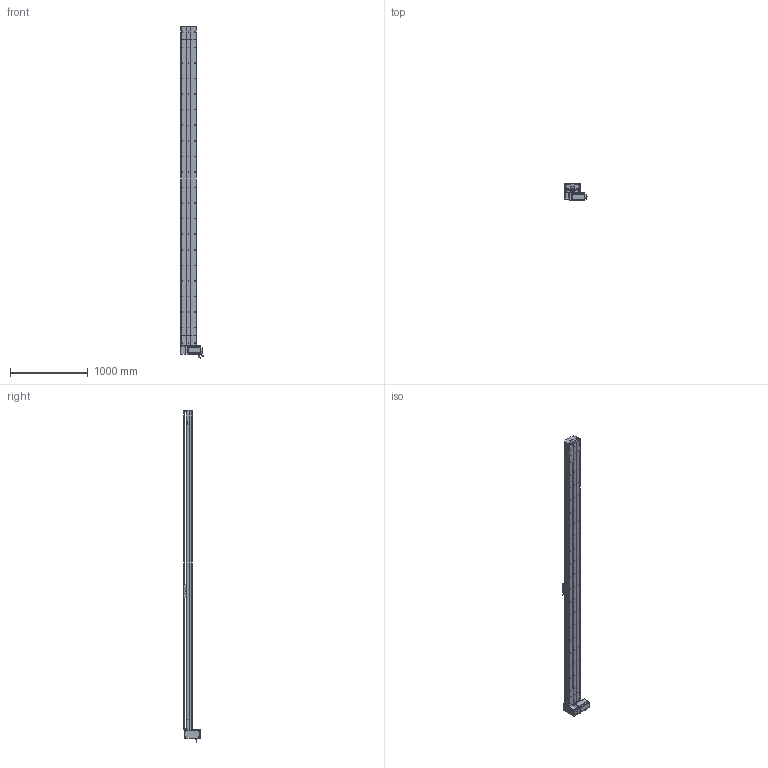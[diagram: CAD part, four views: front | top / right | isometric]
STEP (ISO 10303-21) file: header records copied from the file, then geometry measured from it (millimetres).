
FILE_DESCRIPTION (( 'STEP AP214' ), '1' );
FILE_NAME ('D20 TBH RU S3800.STEP', '2010-07-01T09:08:51', ( 'Conseil Régional Haute-Normandie' ), ( 'Conseil Régional Haute-Normandie' ), 'SwSTEP 2.0', 'SolidWorks 2010', '' );
FILE_SCHEMA (( 'AUTOMOTIVE_DESIGN' ));
Length unit declared in the file: millimetre
Products named in the file (40): D20 TBH RU S3800; Chariot D20B; chariot D20B_Default; Course B L3800_Default; guide D20B; rail + couroie  D20 S3800; couvercle D20 S3800_Default; corp D20 S3800_Default; Conecteur_Default; Conecteur2_Default; codeur 110BLDC170A-630x; vis M5 L12_Default; vis M8 L12_Default; clavette; avant 110BLDC170A-630x; Moteur motionking 110BLDC170A-640x; corps 110BLDC170A-630x; vis M5 L70_Default; poulie tail D20_Default; corpl tail D20_Default; tail D20_Default; couvercle tail D20_Default; Couroie tail D20_Default; plaque de  bout tail D20_Default; rail tail D20; vis M5 L8 90°_Default; tete d''axe poulie D20B; couvercle head D20_Default; rail head D20; corpl head D20_Default; head RU_Default; cache arbre D20_Default; plaque de  bout head D20B RU_Default; poulie head D20_Default; vis M5 L5_Default; couroie_Default; cache D20_Default; Plaque racord D20LH_Default; Renvoi RU D20_Default; vis M5 L25_Default
Assembly tree (71 placements, depth 4):
  D20 TBH RU S3800
    Course B L3800_Default
      rail + couroie  D20 S3800
      corp D20 S3800_Default
      couvercle D20 S3800_Default
    tail D20_Default
      vis M5 L25_Default  x2
      vis M5 L12_Default  x4
      couvercle tail D20_Default
      rail tail D20
      plaque de  bout tail D20_Default
      vis M5 L8 90°_Default  x2
      corpl tail D20_Default
      tete d''axe poulie D20B
      Couroie tail D20_Default
      poulie tail D20_Default
    head RU_Default
      vis M5 L12_Default  x10
      vis M5 L70_Default  x4
      vis M8 L12_Default  x4
      corpl head D20_Default
      couvercle head D20_Default
      vis M5 L25_Default  x2
      poulie head D20_Default
      vis M5 L5_Default  x4
      plaque de  bout head D20B RU_Default
      cache D20_Default  x2
      couroie_Default
      cache arbre D20_Default
      rail head D20
      Moteur motionking 110BLDC170A-640x
        avant 110BLDC170A-630x
        Conecteur2_Default
        corps 110BLDC170A-630x
        clavette
        codeur 110BLDC170A-630x
        Conecteur_Default
      Renvoi RU D20_Default
      Plaque racord D20LH_Default
    chariot D20B_Default
      guide D20B  x2
      Chariot D20B
      vis M5 L12_Default  x4
Bounding box: 304.2 x 223.2 x 4265 mm (x, y, z)
Volume: 32543954.2 mm3; surface area: 8118407.8 mm2
Topology: 95 solids, 95 shells, 2930 faces, 7614 edges, 4927 vertices
Faces by surface type: plane 1653, cylinder 953, bspline 136, cone 99, torus 89
Entity records: 96411 total; most frequent: CARTESIAN_POINT 31693, ORIENTED_EDGE 11884, DIRECTION 11111, EDGE_CURVE 5942, VERTEX_POINT 3913, AXIS2_PLACEMENT_3D 3707, VECTOR 3697, LINE 3697
